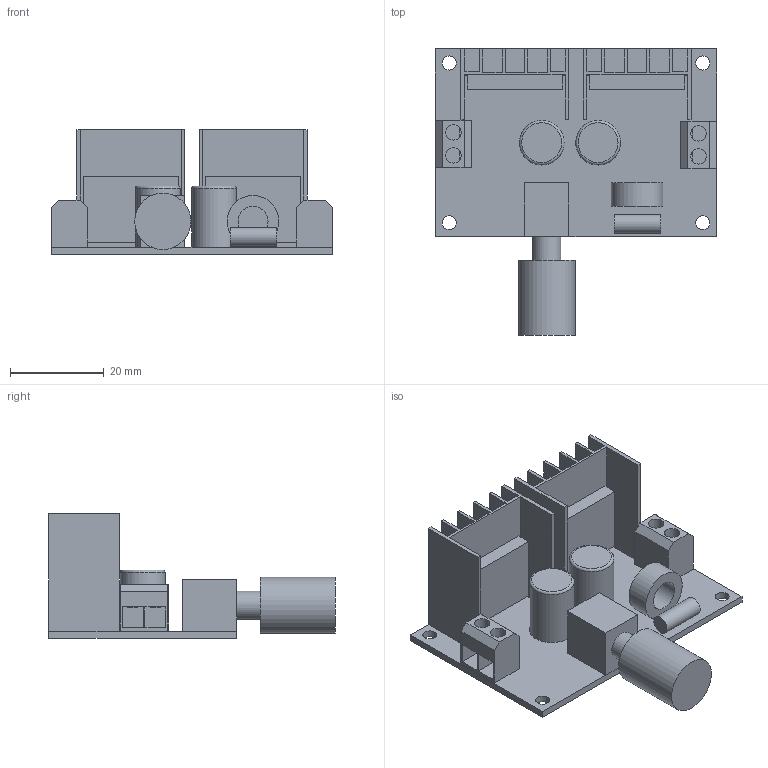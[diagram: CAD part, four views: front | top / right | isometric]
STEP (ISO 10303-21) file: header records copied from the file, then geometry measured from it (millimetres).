
FILE_DESCRIPTION(('FreeCAD Model'),'2;1');
FILE_NAME('Open CASCADE Shape Model','2024-02-21T10:06:04',('Author'),( ''),'Open CASCADE STEP processor 7.5','FreeCAD','Unknown');
FILE_SCHEMA(('AUTOMOTIVE_DESIGN { 1 0 10303 214 1 1 1 1 }'));
Length unit declared in the file: millimetre
Products named in the file (9): XH-M401; Body107; Body108; Body109; Body110; Body111; Body112; Body113; Цилиндр003
Assembly tree (8 placements, depth 2):
  XH-M401
    Body107
    Body108
    Body109
    Body110
    Body111
    Body112
    Body113
    Цилиндр003
Bounding box: 60 x 61 x 26.5 mm (x, y, z)
Volume: 14342.6 mm3; surface area: 17246 mm2
Topology: 8 solids, 8 shells, 147 faces, 374 edges, 248 vertices
Faces by surface type: plane 130, cylinder 15, torus 2
Full cylindrical faces by diameter (mm): 3 x4, 3.28 x4, 4 x1, 6 x1, 6.374 x1, 9.5 x2, 11.021 x1, 12 x1
Entity records: 9562 total; most frequent: CARTESIAN_POINT 1670, DIRECTION 1442, LINE 1030, VECTOR 1030, ORIENTED_EDGE 748, PCURVE 748, DEFINITIONAL_REPRESENTATION 748, EDGE_CURVE 374
